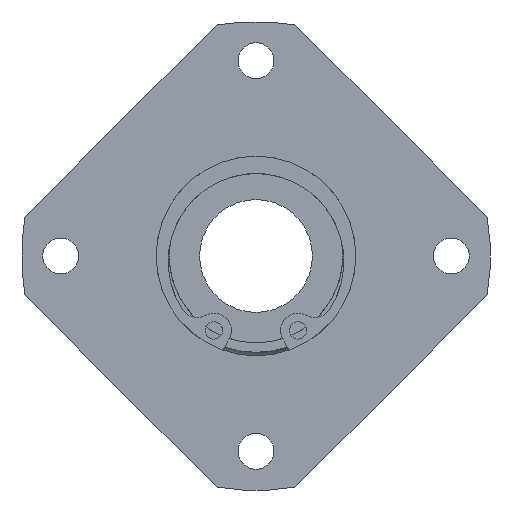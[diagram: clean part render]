
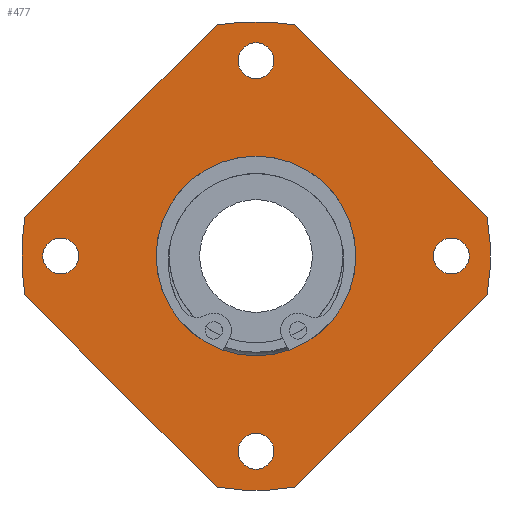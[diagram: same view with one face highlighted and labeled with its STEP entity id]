
A CAD part, left-side view. The second image highlights one B-rep face of the part: STEP entity #477.
In plain terms, the highlighted planar face has unit normal (-1, 0, 0).
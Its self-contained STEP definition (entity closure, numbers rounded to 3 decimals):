
#60=CARTESIAN_POINT('',(0.0,22.5,-2.067));
#61=VERTEX_POINT('',#60);
#62=CARTESIAN_POINT('',(0.0,22.5,0.));
#63=DIRECTION('',(1.0,0.0,0.0));
#64=DIRECTION('',(0.0,0.0,-1.0));
#65=AXIS2_PLACEMENT_3D('',#62,#63,#64);
#66=CIRCLE('',#65,2.067);
#67=EDGE_CURVE('',#61,#61,#66,.T.);
#88=CARTESIAN_POINT('',(0.0,-2.067,-22.5));
#89=VERTEX_POINT('',#88);
#90=CARTESIAN_POINT('',(0.0,0.,-22.5));
#91=DIRECTION('',(1.0,0.0,0.0));
#92=DIRECTION('',(0.0,-1.0,0.0));
#93=AXIS2_PLACEMENT_3D('',#90,#91,#92);
#94=CIRCLE('',#93,2.067);
#95=EDGE_CURVE('',#89,#89,#94,.T.);
#116=CARTESIAN_POINT('',(0.0,-22.5,2.067));
#117=VERTEX_POINT('',#116);
#118=CARTESIAN_POINT('',(0.0,-22.5,0.));
#119=DIRECTION('',(1.0,0.0,0.0));
#120=DIRECTION('',(0.0,0.0,1.0));
#121=AXIS2_PLACEMENT_3D('',#118,#119,#120);
#122=CIRCLE('',#121,2.067);
#123=EDGE_CURVE('',#117,#117,#122,.T.);
#144=CARTESIAN_POINT('',(0.0,2.067,22.5));
#145=VERTEX_POINT('',#144);
#146=CARTESIAN_POINT('',(0.0,0.0,22.5));
#147=DIRECTION('',(1.0,0.0,0.0));
#148=DIRECTION('',(0.0,1.0,0.0));
#149=AXIS2_PLACEMENT_3D('',#146,#147,#148);
#150=CIRCLE('',#149,2.067);
#151=EDGE_CURVE('',#145,#145,#150,.T.);
#171=CARTESIAN_POINT('',(0.0,-26.624,-4.488));
#172=VERTEX_POINT('',#171);
#179=CARTESIAN_POINT('',(0.0,-4.488,-26.624));
#180=VERTEX_POINT('',#179);
#181=CARTESIAN_POINT('',(0.0,-4.488,-26.624));
#182=DIRECTION('',(0.0,-0.707,0.707));
#183=VECTOR('',#182,31.305);
#184=LINE('',#181,#183);
#185=EDGE_CURVE('',#180,#172,#184,.T.);
#211=CARTESIAN_POINT('',(0.0,26.624,4.488));
#212=VERTEX_POINT('',#211);
#219=CARTESIAN_POINT('',(0.0,4.488,26.624));
#220=VERTEX_POINT('',#219);
#221=CARTESIAN_POINT('',(0.0,4.488,26.624));
#222=DIRECTION('',(0.0,0.707,-0.707));
#223=VECTOR('',#222,31.305);
#224=LINE('',#221,#223);
#225=EDGE_CURVE('',#220,#212,#224,.T.);
#251=CARTESIAN_POINT('',(0.0,4.488,-26.624));
#252=VERTEX_POINT('',#251);
#259=CARTESIAN_POINT('',(0.0,26.624,-4.488));
#260=VERTEX_POINT('',#259);
#261=CARTESIAN_POINT('',(0.0,26.624,-4.488));
#262=DIRECTION('',(0.0,-0.707,-0.707));
#263=VECTOR('',#262,31.305);
#264=LINE('',#261,#263);
#265=EDGE_CURVE('',#260,#252,#264,.T.);
#291=CARTESIAN_POINT('',(0.0,-4.488,26.624));
#292=VERTEX_POINT('',#291);
#299=CARTESIAN_POINT('',(0.0,-26.624,4.488));
#300=VERTEX_POINT('',#299);
#301=CARTESIAN_POINT('',(0.0,-26.624,4.488));
#302=DIRECTION('',(0.0,0.707,0.707));
#303=VECTOR('',#302,31.305);
#304=LINE('',#301,#303);
#305=EDGE_CURVE('',#300,#292,#304,.T.);
#322=CARTESIAN_POINT('',(0.0,0.0,0.0));
#323=DIRECTION('',(-1.0,0.0,0.0));
#324=DIRECTION('',(0.0,0.0,1.0));
#325=AXIS2_PLACEMENT_3D('',#322,#323,#324);
#326=CIRCLE('',#325,27.0);
#327=EDGE_CURVE('',#292,#220,#326,.T.);
#354=CARTESIAN_POINT('',(0.0,0.0,0.0));
#355=DIRECTION('',(-1.0,0.0,0.0));
#356=DIRECTION('',(0.0,0.0,1.0));
#357=AXIS2_PLACEMENT_3D('',#354,#355,#356);
#358=CIRCLE('',#357,27.0);
#359=EDGE_CURVE('',#212,#260,#358,.T.);
#370=CARTESIAN_POINT('',(0.0,0.0,0.0));
#371=DIRECTION('',(-1.0,0.0,0.0));
#372=DIRECTION('',(0.0,0.0,1.0));
#373=AXIS2_PLACEMENT_3D('',#370,#371,#372);
#374=CIRCLE('',#373,27.0);
#375=EDGE_CURVE('',#252,#180,#374,.T.);
#433=CARTESIAN_POINT('',(0.0,0.0,19.25));
#434=DIRECTION('',(-1.0,0.0,0.0));
#435=DIRECTION('',(0.0,0.0,1.0));
#436=AXIS2_PLACEMENT_3D('',#433,#434,#435);
#437=PLANE('',#436);
#438=ORIENTED_EDGE('',*,*,#185,.T.);
#439=CARTESIAN_POINT('',(0.0,0.0,0.0));
#440=DIRECTION('',(-1.0,0.0,0.0));
#441=DIRECTION('',(0.0,0.0,1.0));
#442=AXIS2_PLACEMENT_3D('',#439,#440,#441);
#443=CIRCLE('',#442,27.0);
#444=EDGE_CURVE('',#172,#300,#443,.T.);
#445=ORIENTED_EDGE('',*,*,#444,.T.);
#446=ORIENTED_EDGE('',*,*,#305,.T.);
#447=ORIENTED_EDGE('',*,*,#327,.T.);
#448=ORIENTED_EDGE('',*,*,#225,.T.);
#449=ORIENTED_EDGE('',*,*,#359,.T.);
#450=ORIENTED_EDGE('',*,*,#265,.T.);
#451=ORIENTED_EDGE('',*,*,#375,.T.);
#452=EDGE_LOOP('',(#438,#445,#446,#447,#448,#449,#450,#451));
#453=FACE_OUTER_BOUND('',#452,.T.);
#454=ORIENTED_EDGE('',*,*,#67,.T.);
#455=EDGE_LOOP('',(#454));
#456=FACE_BOUND('',#455,.T.);
#457=ORIENTED_EDGE('',*,*,#95,.T.);
#458=EDGE_LOOP('',(#457));
#459=FACE_BOUND('',#458,.T.);
#460=ORIENTED_EDGE('',*,*,#123,.T.);
#461=EDGE_LOOP('',(#460));
#462=FACE_BOUND('',#461,.T.);
#463=ORIENTED_EDGE('',*,*,#151,.T.);
#464=EDGE_LOOP('',(#463));
#465=FACE_BOUND('',#464,.T.);
#466=CARTESIAN_POINT('',(0.0,0.0,11.5));
#467=VERTEX_POINT('',#466);
#468=CARTESIAN_POINT('',(0.0,0.0,0.0));
#469=DIRECTION('',(-1.0,0.0,0.0));
#470=DIRECTION('',(0.0,0.0,1.0));
#471=AXIS2_PLACEMENT_3D('',#468,#469,#470);
#472=CIRCLE('',#471,11.5);
#473=EDGE_CURVE('',#467,#467,#472,.T.);
#474=ORIENTED_EDGE('',*,*,#473,.F.);
#475=EDGE_LOOP('',(#474));
#476=FACE_BOUND('',#475,.T.);
#477=ADVANCED_FACE('',(#453,#456,#459,#462,#465,#476),#437,.T.);
